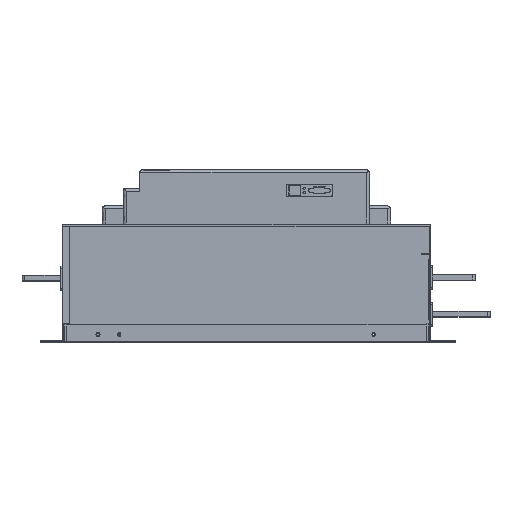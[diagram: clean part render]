
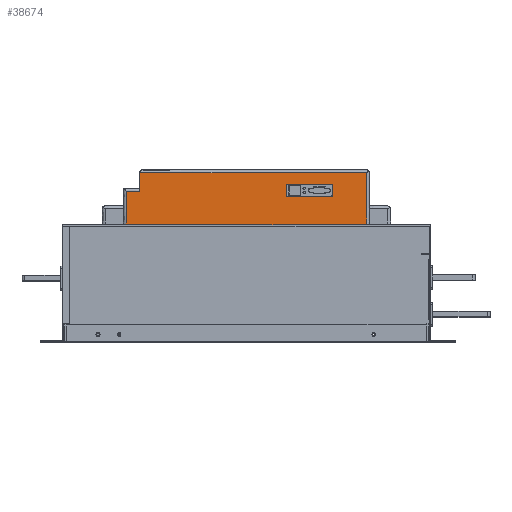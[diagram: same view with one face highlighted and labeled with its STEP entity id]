
A CAD part, top view. The second image highlights one B-rep face of the part: STEP entity #38674.
In plain terms, the highlighted free-form (B-spline) face has degree [1, 1] with [2, 2] control points.
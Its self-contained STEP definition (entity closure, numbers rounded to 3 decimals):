
#1247 = ORIENTED_EDGE ( 'NONE', *, *, #6904, .T. ) ;
#1337 = CARTESIAN_POINT ( 'NONE',  ( 258., 74., 170. ) ) ;
#1928 = ORIENTED_EDGE ( 'NONE', *, *, #49264, .T. ) ;
#3350 = EDGE_CURVE ( 'NONE', #16979, #32387, #11281, .T. ) ;
#3442 = VERTEX_POINT ( 'NONE', #61879 ) ;
#3595 = FACE_BOUND ( 'NONE', #36054, .T. ) ;
#5269 = EDGE_CURVE ( 'NONE', #3442, #36349, #61116, .T. ) ;
#5278 = FACE_OUTER_BOUND ( 'NONE', #61802, .T. ) ;
#6277 = B_SPLINE_SURFACE_WITH_KNOTS ( 'NONE', 1, 1, ( 
 ( #65719, #1337 ),
 ( #38905, #6724 ) ),
 .UNSPECIFIED., .F., .F., .F.,
 ( 2, 2 ),
 ( 2, 2 ),
 ( 0., 1. ),
 ( 0., 1. ),
 .UNSPECIFIED. ) ;
#6724 = CARTESIAN_POINT ( 'NONE',  ( 258., 74., -170. ) ) ;
#6904 = EDGE_CURVE ( 'NONE', #48867, #16979, #25033, .T. ) ;
#8531 = CARTESIAN_POINT ( 'NONE',  ( 258., 48., 151. ) ) ;
#9291 = CARTESIAN_POINT ( 'NONE',  ( 258., 48., 170. ) ) ;
#9617 = B_SPLINE_CURVE_WITH_KNOTS ( 'NONE', 1,
 ( #20566, #47069 ),
 .UNSPECIFIED., .F., .F.,
 ( 2, 2 ),
 ( 0., 1. ),
 .UNSPECIFIED. ) ;
#10953 = ORIENTED_EDGE ( 'NONE', *, *, #54521, .T. ) ;
#11281 = B_SPLINE_CURVE_WITH_KNOTS ( 'NONE', 1,
 ( #34851, #67039 ),
 .UNSPECIFIED., .F., .F.,
 ( 2, 2 ),
 ( 0., 1. ),
 .UNSPECIFIED. ) ;
#16330 = CARTESIAN_POINT ( 'NONE',  ( 258., 74., 151. ) ) ;
#16979 = VERTEX_POINT ( 'NONE', #41958 ) ;
#17252 = ORIENTED_EDGE ( 'NONE', *, *, #24524, .T. ) ;
#18110 = CARTESIAN_POINT ( 'NONE',  ( 258., 48., 151. ) ) ;
#18233 = ORIENTED_EDGE ( 'NONE', *, *, #45500, .T. ) ;
#19351 = ORIENTED_EDGE ( 'NONE', *, *, #5269, .T. ) ;
#19851 = ORIENTED_EDGE ( 'NONE', *, *, #20890, .T. ) ;
#20566 = CARTESIAN_POINT ( 'NONE',  ( 258., 57.5, -122. ) ) ;
#20890 = EDGE_CURVE ( 'NONE', #58244, #27829, #50489, .T. ) ;
#21746 = ORIENTED_EDGE ( 'NONE', *, *, #49373, .T. ) ;
#24524 = EDGE_CURVE ( 'NONE', #44817, #58244, #41293, .T. ) ;
#25033 = B_SPLINE_CURVE_WITH_KNOTS ( 'NONE', 1,
 ( #42885, #69253 ),
 .UNSPECIFIED., .F., .F.,
 ( 2, 2 ),
 ( 0., 1. ),
 .UNSPECIFIED. ) ;
#27829 = VERTEX_POINT ( 'NONE', #9291 ) ;
#32387 = VERTEX_POINT ( 'NONE', #42511 ) ;
#34851 = CARTESIAN_POINT ( 'NONE',  ( 258., 57.5, -56.5 ) ) ;
#35311 = ORIENTED_EDGE ( 'NONE', *, *, #3350, .T. ) ;
#36054 = EDGE_LOOP ( 'NONE', ( #21746, #18233, #1247, #35311 ) ) ;
#36349 = VERTEX_POINT ( 'NONE', #41865 ) ;
#36849 = CARTESIAN_POINT ( 'NONE',  ( 258., 0., 170. ) ) ;
#38674 = ADVANCED_FACE ( 'NONE', ( #3595, #5278 ), #6277, .T. ) ;
#38905 = CARTESIAN_POINT ( 'NONE',  ( 258., 0., -170. ) ) ;
#39054 = EDGE_CURVE ( 'NONE', #27829, #52401, #53512, .T. ) ;
#39232 = CARTESIAN_POINT ( 'NONE',  ( 258., 40.5, -122. ) ) ;
#39233 = CARTESIAN_POINT ( 'NONE',  ( 258., 0., -170. ) ) ;
#40903 = B_SPLINE_CURVE_WITH_KNOTS ( 'NONE', 1,
 ( #55823, #44587 ),
 .UNSPECIFIED., .F., .F.,
 ( 2, 2 ),
 ( 0., 1. ),
 .UNSPECIFIED. ) ;
#41293 = B_SPLINE_CURVE_WITH_KNOTS ( 'NONE', 1,
 ( #55634, #18110 ),
 .UNSPECIFIED., .F., .F.,
 ( 2, 2 ),
 ( 0., 1. ),
 .UNSPECIFIED. ) ;
#41865 = CARTESIAN_POINT ( 'NONE',  ( 258., 74., -170. ) ) ;
#41958 = CARTESIAN_POINT ( 'NONE',  ( 258., 57.5, -56.5 ) ) ;
#42511 = CARTESIAN_POINT ( 'NONE',  ( 258., 57.5, -122. ) ) ;
#42885 = CARTESIAN_POINT ( 'NONE',  ( 258., 40.5, -56.5 ) ) ;
#44374 = CARTESIAN_POINT ( 'NONE',  ( 258., 74., -170. ) ) ;
#44587 = CARTESIAN_POINT ( 'NONE',  ( 258., 0., -170. ) ) ;
#44609 = CARTESIAN_POINT ( 'NONE',  ( 258., 40.5, -56.5 ) ) ;
#44817 = VERTEX_POINT ( 'NONE', #16330 ) ;
#44898 = B_SPLINE_CURVE_WITH_KNOTS ( 'NONE', 1,
 ( #39232, #44609 ),
 .UNSPECIFIED., .F., .F.,
 ( 2, 2 ),
 ( 0., 1. ),
 .UNSPECIFIED. ) ;
#45500 = EDGE_CURVE ( 'NONE', #50978, #48867, #44898, .T. ) ;
#46936 = B_SPLINE_CURVE_WITH_KNOTS ( 'NONE', 1,
 ( #68025, #62593 ),
 .UNSPECIFIED., .F., .F.,
 ( 2, 2 ),
 ( 0., 1. ),
 .UNSPECIFIED. ) ;
#47069 = CARTESIAN_POINT ( 'NONE',  ( 258., 40.5, -122. ) ) ;
#47733 = CARTESIAN_POINT ( 'NONE',  ( 258., 48., 170. ) ) ;
#48867 = VERTEX_POINT ( 'NONE', #56530 ) ;
#49264 = EDGE_CURVE ( 'NONE', #36349, #44817, #46936, .T. ) ;
#49373 = EDGE_CURVE ( 'NONE', #32387, #50978, #9617, .T. ) ;
#50489 = B_SPLINE_CURVE_WITH_KNOTS ( 'NONE', 1,
 ( #69603, #47733 ),
 .UNSPECIFIED., .F., .F.,
 ( 2, 2 ),
 ( 0., 1. ),
 .UNSPECIFIED. ) ;
#50978 = VERTEX_POINT ( 'NONE', #55168 ) ;
#52401 = VERTEX_POINT ( 'NONE', #36849 ) ;
#53359 = CARTESIAN_POINT ( 'NONE',  ( 258., 48., 170. ) ) ;
#53512 = B_SPLINE_CURVE_WITH_KNOTS ( 'NONE', 1,
 ( #53359, #69425 ),
 .UNSPECIFIED., .F., .F.,
 ( 2, 2 ),
 ( 0., 1. ),
 .UNSPECIFIED. ) ;
#54521 = EDGE_CURVE ( 'NONE', #52401, #3442, #40903, .T. ) ;
#55168 = CARTESIAN_POINT ( 'NONE',  ( 258., 40.5, -122. ) ) ;
#55634 = CARTESIAN_POINT ( 'NONE',  ( 258., 74., 151. ) ) ;
#55823 = CARTESIAN_POINT ( 'NONE',  ( 258., 0., 170. ) ) ;
#56530 = CARTESIAN_POINT ( 'NONE',  ( 258., 40.5, -56.5 ) ) ;
#58244 = VERTEX_POINT ( 'NONE', #8531 ) ;
#61116 = B_SPLINE_CURVE_WITH_KNOTS ( 'NONE', 1,
 ( #39233, #44374 ),
 .UNSPECIFIED., .F., .F.,
 ( 2, 2 ),
 ( 0., 1. ),
 .UNSPECIFIED. ) ;
#61802 = EDGE_LOOP ( 'NONE', ( #67149, #10953, #19351, #1928, #17252, #19851 ) ) ;
#61879 = CARTESIAN_POINT ( 'NONE',  ( 258., 0., -170. ) ) ;
#62593 = CARTESIAN_POINT ( 'NONE',  ( 258., 74., 151. ) ) ;
#65719 = CARTESIAN_POINT ( 'NONE',  ( 258., 0., 170. ) ) ;
#67039 = CARTESIAN_POINT ( 'NONE',  ( 258., 57.5, -122. ) ) ;
#67149 = ORIENTED_EDGE ( 'NONE', *, *, #39054, .T. ) ;
#68025 = CARTESIAN_POINT ( 'NONE',  ( 258., 74., -170. ) ) ;
#69253 = CARTESIAN_POINT ( 'NONE',  ( 258., 57.5, -56.5 ) ) ;
#69425 = CARTESIAN_POINT ( 'NONE',  ( 258., 0., 170. ) ) ;
#69603 = CARTESIAN_POINT ( 'NONE',  ( 258., 48., 151. ) ) ;
